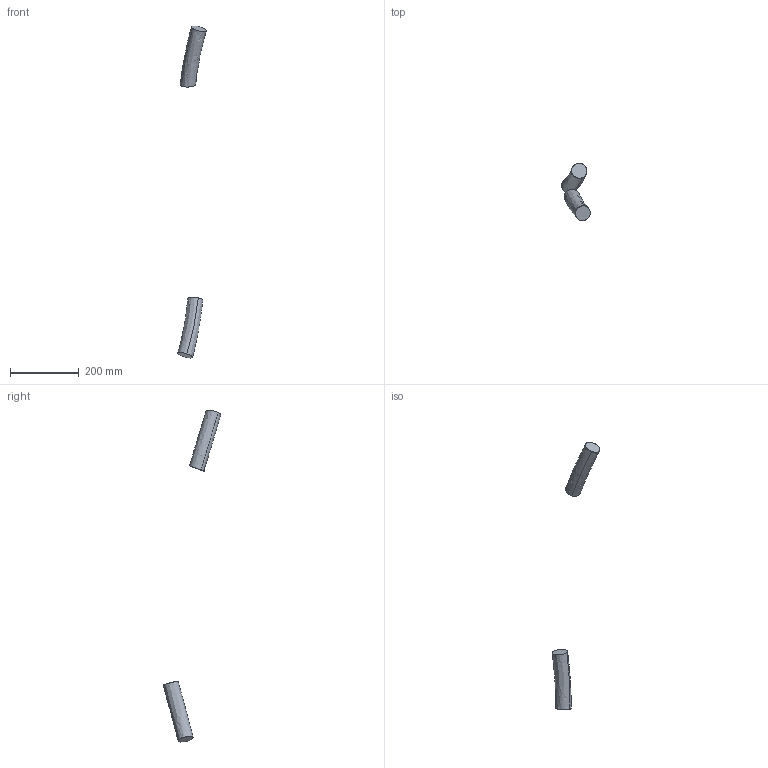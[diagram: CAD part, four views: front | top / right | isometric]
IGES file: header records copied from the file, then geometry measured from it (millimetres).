
Start section: SolidWorks IGES file using analytic representation for surfaces
Global section: file name: C:\Users\SEALDUN\OneDrive - ABB\Documents\R&D Robotics\Work Items\WI 632927\IGES\IRB5710-LID-MH_90kg-230_OC_02_IGES_J\IRB5710-LID-MH_90kg-230_OC_00_LINK02_CABLE.igs; native system: SolidWorks 2024; preprocessor: SolidWorks 2024; author: SEALDUN; date: 250707.154019; units: millimetre
Bounding box: 82.79 x 167.7 x 964.16 mm (x, y, z)
Surface area: 54493.2 mm2 (no closed solid volume)
Topology: 0 solids, 0 shells, 8 faces, 328 edges, 328 vertices
Faces by surface type: bspline 8
